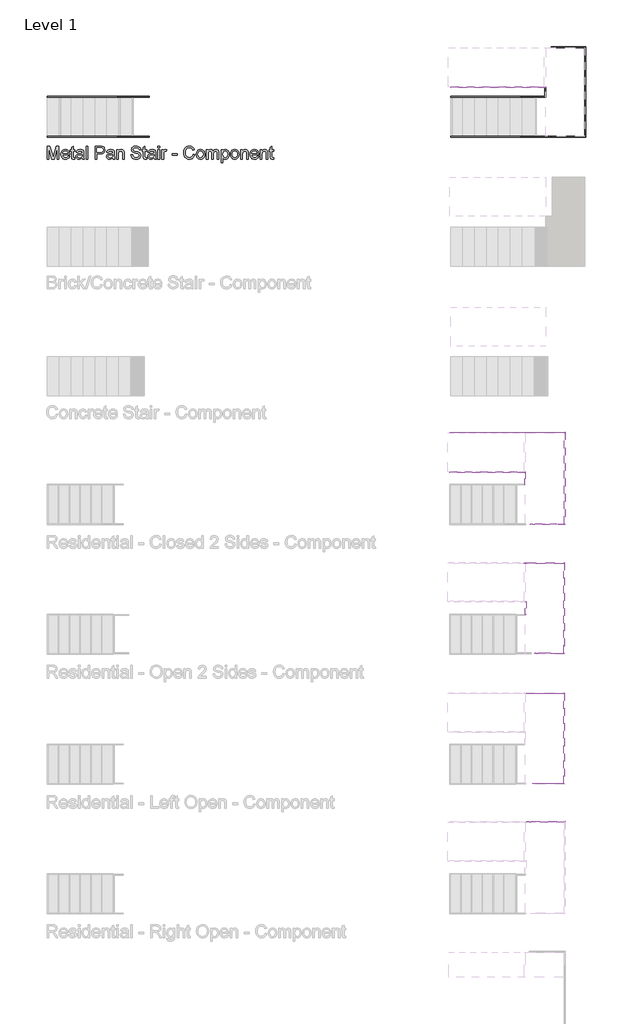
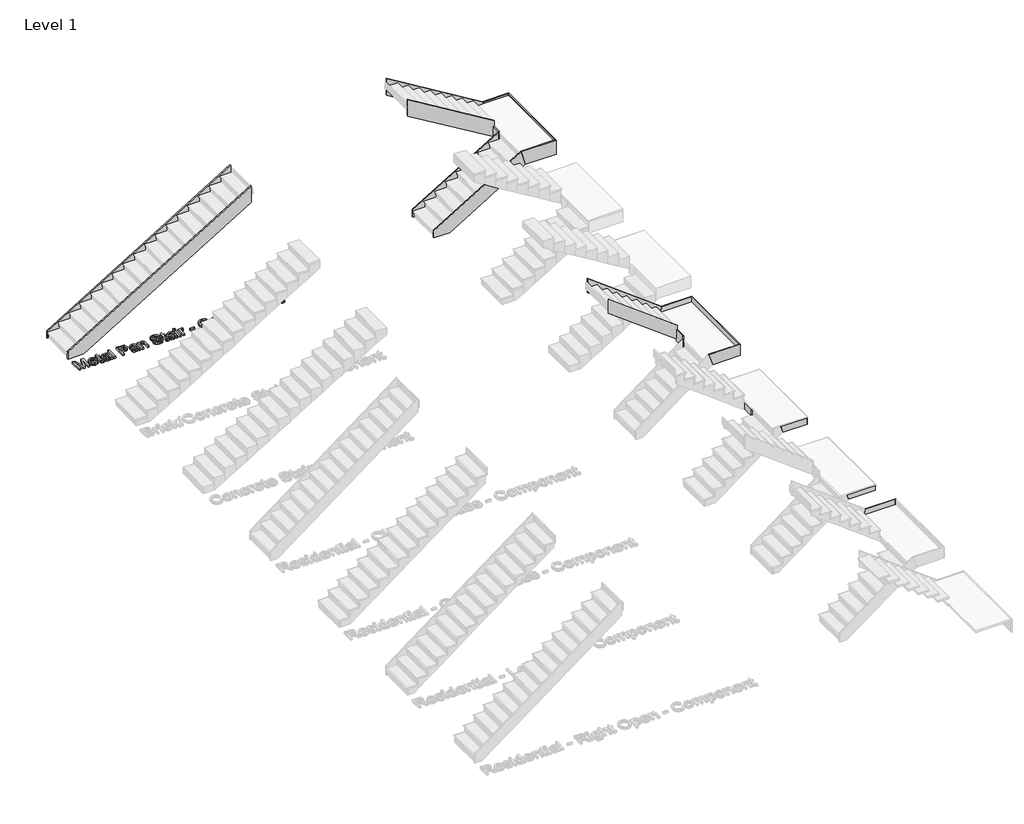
# One storey, part 15 of 15: 24 members, 1 proxy.
"""IFC4 building model written with IfcOpenShell, lengths in millimetres."""

import ifcopenshell
import ifcopenshell.guid

model = None  # the IFC model being written
_history = None  # IfcOwnerHistory: only IFC2X3 demands one
_inside = {}  # id of a spatial element -> (the spatial element, [elements in it])
_under = {}  # id of a project, library or spatial element -> (it, [spatial elements below it])
_declared = {}  # id of a project -> (the project, [libraries it declares])
_typed = {}  # id of a type object -> (the type object, [elements of that type])
_made_of = {}  # id of a material, layer set ... -> (it, [elements and type objects made of it])


def new_model(schema):
    """Start an empty IFC model of exactly this schema.

    Asked for "IFC4X3", IfcOpenShell would pick the latest addendum, in which some entities
    have other attributes; the version numbers below select the first issue.
    IFC2X3 requires an IfcOwnerHistory on every rooted entity: one is made here for all.
    """
    global model, _history
    if schema == "IFC4X3":
        model = ifcopenshell.file(schema_version=(4, 3, 0, 0))
    else:
        model = ifcopenshell.file(schema=schema)
    _inside.clear()
    _under.clear()
    _declared.clear()
    _typed.clear()
    _made_of.clear()
    _history = None
    if model.schema == "IFC2X3":
        org = make("IfcOrganization", Name="unknown")
        user = make(
            "IfcPersonAndOrganization",
            ThePerson=make("IfcPerson", FamilyName="unknown"),
            TheOrganization=org,
        )
        app = make(
            "IfcApplication",
            ApplicationDeveloper=org,
            Version="unknown",
            ApplicationFullName="unknown",
            ApplicationIdentifier="unknown",
        )
        _history = make(
            "IfcOwnerHistory",
            OwningUser=user,
            OwningApplication=app,
            ChangeAction="ADDED",
            CreationDate=0,
        )
    return model


def make(cls, **values):
    """One entity of the class cls with the attributes given. An attribute that is None is left unset."""
    return model.create_entity(
        cls, **{name: value for name, value in values.items() if value is not None}
    )


def rooted(cls, **values):
    """An entity with a GlobalId (a new one), such as an element, a storey or a relation."""
    return make(cls, GlobalId=ifcopenshell.guid.new(), OwnerHistory=_history, **values)


def si_unit(unit_type, name, prefix=None):
    """IfcSIUnit, for example si_unit("LENGTHUNIT", "METRE", prefix="MILLI")."""
    return make("IfcSIUnit", UnitType=unit_type, Prefix=prefix, Name=name)


def assignment(units):
    """IfcUnitAssignment: the units of a project."""
    return None if units is None else make("IfcUnitAssignment", Units=units)


def point(xyz):
    """IfcCartesianPoint."""
    return None if xyz is None else make("IfcCartesianPoint", Coordinates=xyz)


def direction(xyz):
    """IfcDirection."""
    return None if xyz is None else make("IfcDirection", DirectionRatios=xyz)


def frame(location, z_axis=None, x_axis=None):
    """IfcAxis2Placement3D, a coordinate frame: its origin and axes. An axis left out is left unset."""
    return make(
        "IfcAxis2Placement3D",
        Location=point(location),
        Axis=direction(z_axis),
        RefDirection=direction(x_axis),
    )


def origin():
    """The frame at (0, 0, 0) with its axes left unset."""
    return frame((0.0, 0.0, 0.0))


def origin_with_axes():
    """The frame at (0, 0, 0) with the z axis (0, 0, 1) and the x axis (1, 0, 0) written out."""
    return frame((0.0, 0.0, 0.0), z_axis=(0.0, 0.0, 1.0), x_axis=(1.0, 0.0, 0.0))


def place(relative_to, where):
    """IfcLocalPlacement: puts the frame where relative to a parent placement (None: the world)."""
    return make(
        "IfcLocalPlacement", PlacementRelTo=relative_to, RelativePlacement=where
    )


def context(
    kind, dimensions, precision=None, world=None, true_north=None, identifier=None
):
    """IfcGeometricRepresentationContext, for example the 3D "Model" context."""
    return make(
        "IfcGeometricRepresentationContext",
        ContextIdentifier=identifier,
        ContextType=kind,
        CoordinateSpaceDimension=dimensions,
        Precision=precision,
        WorldCoordinateSystem=world,
        TrueNorth=true_north,
    )


def project(units=None, contexts=None):
    """IfcProject with its units and contexts."""
    return rooted(
        "IfcProject",
        Name="project",
        RepresentationContexts=contexts,
        UnitsInContext=assignment(units),
    )


def spatial(cls, under=None, at=None, **own):
    """A site, building, storey or space (cls), placed at a placement, below another one or the project."""
    s = rooted(cls, ObjectPlacement=at, **own)
    if under is not None:
        _under.setdefault(under.id(), (under, []))[1].append(s)
    return s


def polyline(points):
    """IfcPolyline through the points."""
    return make("IfcPolyline", Points=[point(p) for p in points])


def outline(outer, holes=None, kind="AREA"):
    """IfcArbitraryClosedProfileDef: a profile drawn as a closed curve; with holes, ...WithVoids."""
    if holes is None:
        return make("IfcArbitraryClosedProfileDef", ProfileType=kind, OuterCurve=outer)
    return make(
        "IfcArbitraryProfileDefWithVoids",
        ProfileType=kind,
        OuterCurve=outer,
        InnerCurves=holes,
    )


def extrude(swept, where, along, depth):
    """IfcExtrudedAreaSolid: the profile swept, set in the frame where, extruded along a direction by depth."""
    return make(
        "IfcExtrudedAreaSolid",
        SweptArea=swept,
        Position=where,
        ExtrudedDirection=direction(along),
        Depth=depth,
    )


def faces_of(points, faces, orient=None, outer=None):
    """IfcFace entities. A face is a list of loops; a loop is a list of indices into points, from 0.

    orient and outer hold one flag for each loop. By default every Orientation is true, the
    first loop of a face is its IfcFaceOuterBound and the others are IfcFaceBound.
    """
    made = []
    for i, loops in enumerate(faces):
        bounds = []
        for j, loop in enumerate(loops):
            is_outer = j == 0 if outer is None else outer[i][j]
            bounds.append(
                make(
                    "IfcFaceOuterBound" if is_outer else "IfcFaceBound",
                    Bound=make("IfcPolyLoop", Polygon=[points[k] for k in loop]),
                    Orientation=True if orient is None else orient[i][j],
                )
            )
        made.append(make("IfcFace", Bounds=bounds))
    return made


def faceted_brep(points, faces, orient=None, outer=None, voids=None):
    """IfcFacetedBrep: a solid bounded by flat faces; with voids (closed shells), ...WithVoids."""
    shared = [point(p) for p in points]
    hull = make("IfcClosedShell", CfsFaces=faces_of(shared, faces, orient, outer))
    if voids is None:
        return make("IfcFacetedBrep", Outer=hull)
    return make(
        "IfcFacetedBrepWithVoids",
        Outer=hull,
        Voids=[
            make(cls, CfsFaces=faces_of(shared, fs, o, b)) for cls, fs, o, b in voids
        ],
    )


def shape(context_of_items, identifier, shape_type, items):
    """IfcShapeRepresentation: the items that make up one representation, for example the "Body"."""
    return make(
        "IfcShapeRepresentation",
        ContextOfItems=context_of_items,
        RepresentationIdentifier=identifier,
        RepresentationType=shape_type,
        Items=items,
    )


def made_of(thing, what):
    """Note that an element or type object is made of a material, layer set ...; save() writes the relation."""
    if what is not None:
        _made_of.setdefault(what.id(), (what, []))[1].append(thing)
    return thing


def element(
    cls,
    number,
    at=None,
    inside=None,
    cuts=None,
    type_object=None,
    material=None,
    context=None,
    identifier="Body",
    shape_type=None,
    held_by="IfcProductDefinitionShape",
    body=None,
    shapes=None,
    **own,
):
    """One element of the class cls, such as IfcWall. Its Tag is "e" and its number.

    at: its placement. inside: the storey or other place that contains it. cuts: it is an
    opening in that element (IfcRelVoidsElement). A single representation is given by context,
    identifier, shape_type and body (its items); several are given by shapes. held_by: the class
    of the entity that holds the representations. save() writes the other relations.
    """
    e = rooted(cls, Tag="e%d" % number, ObjectPlacement=at, **own)
    if body is not None:
        shapes = [shape(context, identifier, shape_type, body)]
    if shapes is not None:
        e.Representation = make(held_by, Representations=shapes)
    if inside is not None:
        _inside.setdefault(inside.id(), (inside, []))[1].append(e)
    if cuts is not None:
        rooted(
            "IfcRelVoidsElement", RelatingBuildingElement=cuts, RelatedOpeningElement=e
        )
    if type_object is not None:
        _typed.setdefault(type_object.id(), (type_object, []))[1].append(e)
    return made_of(e, material)


def aggregate(whole, parts):
    """IfcRelAggregates: a whole, such as a stair, and the parts it consists of."""
    return rooted("IfcRelAggregates", RelatingObject=whole, RelatedObjects=parts)


def save(model, path):
    """Write the relations noted so far, then the file.

    IfcRelAggregates (storeys below a building ...), IfcRelContainedInSpatialStructure (elements
    in a storey), IfcRelDefinesByType, IfcRelAssociatesMaterial and IfcRelDeclares: one each for
    every whole, place, type object, material and project.
    """
    for whole, parts in _under.values():
        aggregate(whole, parts)
    for where, things in _inside.values():
        rooted(
            "IfcRelContainedInSpatialStructure",
            RelatedElements=things,
            RelatingStructure=where,
        )
    for kind, things in _typed.values():
        rooted("IfcRelDefinesByType", RelatedObjects=things, RelatingType=kind)
    for what, things in _made_of.values():
        rooted("IfcRelAssociatesMaterial", RelatedObjects=things, RelatingMaterial=what)
    for by, libraries in _declared.values():
        rooted("IfcRelDeclares", RelatingContext=by, RelatedDefinitions=libraries)
    model.write(path)


model = new_model("IFC4")

# Units and contexts
model_context = context("Model", 3, world=origin())
ifc_project = project(units=[si_unit("LENGTHUNIT", "METRE", prefix="MILLI")], contexts=[model_context])

# Site, building, storey
site = spatial("IfcSite", under=ifc_project)
building = spatial("IfcBuilding", under=site)
storey = spatial("IfcBuildingStorey", under=building, Name="Level 1", Elevation=0.0)

# Proxy
placement = place(None, origin())
element("IfcBuildingElementProxy", 1, Name="12\" Arial", ObjectType="12\" Arial", at=placement, inside=storey, context=model_context, shape_type="SweptSolid", body=[
    extrude(outline(polyline([(-27238.310174, 15572.8767877), (-27238.310174, 15872.987557), (-27173.7599817, 15872.987557), (-27112.3603664, 15661.4592877), (-27099.9778664, 15617.2779416), (-27086.5695971, 15665.1227493), (-27026.195751, 15872.987557), (-26961.6455587, 15872.987557), (-26961.6455587, 15572.8767877), (-26999.1594048, 15572.8767877), (-26999.1594048, 15835.4737108), (-27074.5534433, 15572.8767877), (-27125.4022894, 15572.8767877), (-27200.7963279, 15835.4737108), (-27200.7963279, 15572.8767877), (-27238.310174, 15572.8767877)])), origin_with_axes(), (0.0, 0.0, 1.0), 50.8),
    extrude(outline(polyline([(-26746.3805587, 15638.5260185), (-26709.5994048, 15633.8367877), (-26722.8519769, 15606.1227012), (-26743.9993087, 15585.4058262), (-26772.56515, 15572.4921243), (-26808.073251, 15568.187557), (-26831.3499697, 15570.044474), (-26852.0897414, 15575.6152252), (-26870.2925659, 15584.8998106), (-26885.9584433, 15597.89823), (-26898.5561716, 15614.2487168), (-26907.554549, 15633.5895041), (-26912.9535755, 15655.9205918), (-26914.753251, 15681.24198), (-26912.9352582, 15707.4219921), (-26907.4812798, 15730.4972204), (-26898.3913159, 15750.4676651), (-26885.6653664, 15767.3333262), (-26870.0407029, 15780.7324368), (-26852.2545971, 15790.30323), (-26832.307049, 15796.045706), (-26810.1980587, 15797.9598646), (-26788.8011536, 15796.0502853), (-26769.4512077, 15790.3215473), (-26752.1482209, 15780.7736507), (-26736.8921933, 15767.4065954), (-26724.4387137, 15750.577569), (-26715.5433712, 15730.6437589), (-26710.2061656, 15707.6051651), (-26708.4270971, 15681.4617877), (-26708.6469048, 15671.3506339), (-26877.2394048, 15671.3506339), (-26870.7459192, 15643.2702012), (-26855.6616164, 15622.6265954), (-26833.8914962, 15609.9327012), (-26807.3405587, 15605.7014031), (-26787.3746933, 15607.661355), (-26770.5594048, 15613.5412108), (-26756.8946933, 15623.7073166), (-26746.3805587, 15638.5260185)]), holes=[polyline([(-26877.2394048, 15708.86448), (-26745.9409433, 15708.86448), (-26751.0148375, 15728.683807), (-26760.9611356, 15742.8614031), (-26782.832001, 15756.0498646), (-26810.3445971, 15760.4460185), (-26835.6316404, 15756.9382541), (-26856.5408471, 15746.4149608), (-26871.0756308, 15730.0118118), (-26877.2394048, 15708.86448)])]), origin_with_axes(), (0.0, 0.0, 1.0), 50.8),
    extrude(outline(polyline([(-26591.1963279, 15604.1627493), (-26586.5070971, 15571.7777493), (-26614.5692125, 15568.187557), (-26632.575126, 15569.7445281), (-26646.0017125, 15574.4154416), (-26655.4900779, 15581.6141435), (-26661.6813279, 15590.75448), (-26665.0883471, 15606.4524127), (-26666.2240202, 15633.3239031), (-26666.2240202, 15755.7567877), (-26694.3594048, 15755.7567877), (-26694.3594048, 15793.2706339), (-26666.2240202, 15793.2706339), (-26666.2240202, 15846.8304416), (-26628.710174, 15868.88448), (-26628.710174, 15793.2706339), (-26591.1963279, 15793.2706339), (-26591.1963279, 15755.7567877), (-26628.710174, 15755.7567877), (-26628.710174, 15634.4229416), (-26626.7319048, 15615.0798646), (-26620.3208471, 15608.2291916), (-26607.5353664, 15605.7014031), (-26591.1963279, 15604.1627493)])), origin_with_axes(), (0.0, 0.0, 1.0), 50.8),
    extrude(outline(polyline([(-26413.0055587, 15601.0121723), (-26430.9290442, 15585.6439512), (-26449.3837317, 15575.5877493), (-26468.7909192, 15570.037605), (-26489.5719048, 15568.187557), (-26520.9219769, 15572.6386627), (-26544.0475779, 15585.99198), (-26558.3076019, 15606.2692396), (-26563.0609433, 15631.4921723), (-26561.2658471, 15647.0435666), (-26555.8805587, 15661.1662108), (-26547.5736596, 15673.2556339), (-26537.0137317, 15682.7073646), (-26510.7467125, 15695.0165954), (-26478.2884433, 15700.6583262), (-26439.932001, 15706.5931339), (-26413.2253664, 15713.5537108), (-26413.0055587, 15721.9064031), (-26415.588299, 15738.6484223), (-26423.3365202, 15749.6021723), (-26440.6646933, 15757.735057), (-26464.8069048, 15760.4460185), (-26487.1540202, 15758.6417637), (-26502.7603664, 15753.2289993), (-26513.4027221, 15743.2185906), (-26520.8578664, 15727.6214031), (-26558.3717125, 15732.3106339), (-26551.8599096, 15752.8260185), (-26542.1425779, 15768.9452493), (-26528.3130106, 15781.2727973), (-26509.464501, 15790.4131339), (-26486.4121692, 15796.073182), (-26459.9711356, 15797.9598646), (-26434.6108231, 15796.2929896), (-26414.5075779, 15791.2923646), (-26399.3500058, 15783.7731098), (-26388.8267125, 15774.5503454), (-26381.8478183, 15763.1478214), (-26377.3234433, 15749.0892877), (-26375.4917125, 15716.2646723), (-26375.4917125, 15669.5921723), (-26373.5867125, 15604.4191916), (-26366.113251, 15572.8767877), (-26403.6270971, 15572.8767877), (-26413.0055587, 15601.0121723)]), holes=[polyline([(-26413.0055587, 15676.0398646), (-26473.5259433, 15664.5365954), (-26505.8010394, 15658.4552493), (-26520.418251, 15648.5639031), (-26525.5470971, 15634.1298646), (-26522.7537077, 15622.9746243), (-26514.3735394, 15613.8342877), (-26500.5897654, 15607.7346243), (-26481.5855587, 15605.7014031), (-26461.4365202, 15607.9452733), (-26443.6320971, 15614.6768839), (-26429.1980587, 15624.595706), (-26419.160174, 15636.4012108), (-26414.7090683, 15648.5639031), (-26413.2253664, 15665.4158262), (-26413.0055587, 15676.0398646)])]), origin_with_axes(), (0.0, 0.0, 1.0), 50.8),
    extrude(outline(polyline([(-26323.910174, 15572.8767877), (-26323.910174, 15872.987557), (-26286.3963279, 15872.987557), (-26286.3963279, 15572.8767877), (-26323.910174, 15572.8767877)])), origin_with_axes(), (0.0, 0.0, 1.0), 50.8),
    extrude(outline(polyline([(-26108.2055587, 15572.8767877), (-26108.2055587, 15872.987557), (-25996.9828664, 15872.987557), (-25952.1420971, 15870.130057), (-25932.1487558, 15864.7905618), (-25915.6906548, 15856.0989993), (-25902.4380827, 15843.6615473), (-25892.0613279, 15827.0843839), (-25885.3571933, 15807.5306579), (-25883.1224817, 15786.1635185), (-25884.63137, 15767.7408863), (-25889.1580346, 15750.7927973), (-25896.7024757, 15735.3192517), (-25907.2646933, 15721.3202493), (-25921.765132, 15709.7162348), (-25941.1242365, 15701.4276531), (-25965.342007, 15696.4545041), (-25994.4184433, 15694.7967877), (-26070.6917125, 15694.7967877), (-26070.6917125, 15572.8767877), (-26108.2055587, 15572.8767877)]), holes=[polyline([(-26070.6917125, 15732.3106339), (-25992.2203664, 15732.3106339), (-25958.9561356, 15735.7542877), (-25936.9753664, 15746.0852493), (-25924.7210875, 15762.6624127), (-25920.6363279, 15784.8446723), (-25923.0450539, 15801.6965954), (-25930.2712317, 15815.9108262), (-25941.4173135, 15826.6081339), (-25955.585751, 15832.9092877), (-25993.0995971, 15835.4737108), (-26070.6917125, 15835.4737108), (-26070.6917125, 15732.3106339)])]), origin_with_axes(), (0.0, 0.0, 1.0), 50.8),
    extrude(outline(polyline([(-25695.553251, 15601.0121723), (-25713.4767365, 15585.6439512), (-25731.931424, 15575.5877493), (-25751.3386115, 15570.037605), (-25772.1195971, 15568.187557), (-25803.4696692, 15572.6386627), (-25826.5952702, 15585.99198), (-25840.8552942, 15606.2692396), (-25845.6086356, 15631.4921723), (-25843.8135394, 15647.0435666), (-25838.428251, 15661.1662108), (-25830.1213519, 15673.2556339), (-25819.561424, 15682.7073646), (-25793.2944048, 15695.0165954), (-25760.8361356, 15700.6583262), (-25722.4796933, 15706.5931339), (-25695.7730587, 15713.5537108), (-25695.553251, 15721.9064031), (-25698.1359914, 15738.6484223), (-25705.8842125, 15749.6021723), (-25723.2123856, 15757.735057), (-25747.3545971, 15760.4460185), (-25769.7017125, 15758.6417637), (-25785.3080587, 15753.2289993), (-25795.9504144, 15743.2185906), (-25803.4055587, 15727.6214031), (-25840.9194048, 15732.3106339), (-25834.4076019, 15752.8260185), (-25824.6902702, 15768.9452493), (-25810.8607029, 15781.2727973), (-25792.0121933, 15790.4131339), (-25768.9598615, 15796.073182), (-25742.5188279, 15797.9598646), (-25717.1585154, 15796.2929896), (-25697.0552702, 15791.2923646), (-25681.8976981, 15783.7731098), (-25671.3744048, 15774.5503454), (-25664.3955106, 15763.1478214), (-25659.8711356, 15749.0892877), (-25658.0394048, 15716.2646723), (-25658.0394048, 15669.5921723), (-25656.1344048, 15604.4191916), (-25648.6609433, 15572.8767877), (-25686.1747894, 15572.8767877), (-25695.553251, 15601.0121723)]), holes=[polyline([(-25695.553251, 15676.0398646), (-25756.0736356, 15664.5365954), (-25788.3487317, 15658.4552493), (-25802.9659433, 15648.5639031), (-25808.0947894, 15634.1298646), (-25805.3014, 15622.9746243), (-25796.9212317, 15613.8342877), (-25783.1374577, 15607.7346243), (-25764.133251, 15605.7014031), (-25743.9842125, 15607.9452733), (-25726.1797894, 15614.6768839), (-25711.745751, 15624.595706), (-25701.7078664, 15636.4012108), (-25697.2567606, 15648.5639031), (-25695.7730587, 15665.4158262), (-25695.553251, 15676.0398646)])]), origin_with_axes(), (0.0, 0.0, 1.0), 50.8),
    extrude(outline(polyline([(-25606.4578664, 15572.8767877), (-25606.4578664, 15793.2706339), (-25568.9440202, 15793.2706339), (-25568.9440202, 15762.497557), (-25555.9112558, 15778.0123166), (-25540.2591164, 15789.0942877), (-25521.9876019, 15795.7434704), (-25501.0967125, 15797.9598646), (-25482.6053904, 15796.1739271), (-25465.6710394, 15790.8161146), (-25451.5483952, 15782.5550089), (-25441.4921933, 15772.0591916), (-25430.2453664, 15744.4733262), (-25428.2670971, 15708.205057), (-25428.2670971, 15572.8767877), (-25465.7809433, 15572.8767877), (-25465.7809433, 15703.14948), (-25470.1038279, 15736.3404416), (-25476.0844289, 15746.2226291), (-25485.3804625, 15753.8884223), (-25497.2958712, 15758.8066195), (-25511.1345971, 15760.4460185), (-25533.1062077, 15756.7642396), (-25551.8356548, 15745.7189031), (-25559.3205647, 15736.7022084), (-25564.6669289, 15724.3792396), (-25568.9440202, 15689.81448), (-25568.9440202, 15572.8767877), (-25606.4578664, 15572.8767877)])), origin_with_axes(), (0.0, 0.0, 1.0), 50.8),
    extrude(outline(polyline([(-25268.833251, 15676.0398646), (-25231.3194048, 15676.0398646), (-25227.0148375, 15655.2222445), (-25219.2299817, 15638.4893839), (-25207.0856067, 15625.2093358), (-25189.7024817, 15614.7501531), (-25168.4544048, 15607.9635906), (-25144.715174, 15605.7014031), (-25123.815126, 15607.4140714), (-25105.5161356, 15612.5520762), (-25090.688275, 15620.6849608), (-25080.2016164, 15631.3822685), (-25073.9645731, 15643.6640233), (-25071.8855587, 15656.5502493), (-25073.4425298, 15669.1067637), (-25078.1134433, 15679.9597685), (-25087.6018087, 15689.2191675), (-25103.6111356, 15696.9948646), (-25158.2333471, 15711.3189993), (-25194.0894769, 15720.798206), (-25217.0319048, 15729.81948), (-25235.7064, 15742.440105), (-25248.9406548, 15757.735057), (-25256.8262558, 15775.3746243), (-25259.4547894, 15795.0290954), (-25256.2034673, 15817.000706), (-25246.449501, 15837.4886146), (-25230.4493327, 15854.8534223), (-25208.4594048, 15867.45573), (-25182.0641644, 15875.1215233), (-25152.8480587, 15877.6767877), (-25121.195751, 15875.0024608), (-25093.4999817, 15866.97948), (-25070.7498856, 15853.7727012), (-25053.9345971, 15835.54698), (-25043.2922414, 15813.4379896), (-25039.0609433, 15788.5814031), (-25076.5747894, 15788.5814031), (-25083.4620971, 15810.9651531), (-25097.8228664, 15827.1210185), (-25120.2615683, 15836.9024608), (-25151.382674, 15840.1629416), (-25183.2364721, 15836.9390954), (-25205.0890202, 15827.267557), (-25217.7279625, 15813.0350089), (-25221.9409433, 15796.1281339), (-25218.9552221, 15781.7124127), (-25209.9980587, 15770.117557), (-25188.823251, 15759.7499608), (-25148.7449817, 15749.162557), (-25107.384501, 15739.106355), (-25082.3630587, 15730.3323646), (-25060.9776019, 15716.722605), (-25046.0581548, 15699.9256339), (-25037.2933231, 15680.1246243), (-25034.3717125, 15657.5027493), (-25037.7329385, 15634.3771483), (-25047.8166164, 15612.6253454), (-25064.2106067, 15593.905057), (-25086.5027702, 15579.8739993), (-25113.31015, 15571.1091675), (-25143.2497894, 15568.187557), (-25180.0034673, 15571.3381339), (-25210.254501, 15580.7898646), (-25234.3509192, 15596.5793839), (-25252.640751, 15618.7433262), (-25264.3821452, 15645.7430377), (-25268.833251, 15676.0398646)])), origin_with_axes(), (0.0, 0.0, 1.0), 50.8),
    extrude(outline(polyline([(-24903.073251, 15604.1627493), (-24898.3840202, 15571.7777493), (-24926.4461356, 15568.187557), (-24944.452049, 15569.7445281), (-24957.8786356, 15574.4154416), (-24967.367001, 15581.6141435), (-24973.558251, 15590.75448), (-24976.9652702, 15606.4524127), (-24978.1009433, 15633.3239031), (-24978.1009433, 15755.7567877), (-25006.2363279, 15755.7567877), (-25006.2363279, 15793.2706339), (-24978.1009433, 15793.2706339), (-24978.1009433, 15846.8304416), (-24940.5870971, 15868.88448), (-24940.5870971, 15793.2706339), (-24903.073251, 15793.2706339), (-24903.073251, 15755.7567877), (-24940.5870971, 15755.7567877), (-24940.5870971, 15634.4229416), (-24938.6088279, 15615.0798646), (-24932.1977702, 15608.2291916), (-24919.4122894, 15605.7014031), (-24903.073251, 15604.1627493)])), origin_with_axes(), (0.0, 0.0, 1.0), 50.8),
    extrude(outline(polyline([(-24724.8824817, 15601.0121723), (-24742.8059673, 15585.6439512), (-24761.2606548, 15575.5877493), (-24780.6678423, 15570.037605), (-24801.4488279, 15568.187557), (-24832.7989, 15572.6386627), (-24855.924501, 15585.99198), (-24870.184525, 15606.2692396), (-24874.9378664, 15631.4921723), (-24873.1427702, 15647.0435666), (-24867.7574817, 15661.1662108), (-24859.4505827, 15673.2556339), (-24848.8906548, 15682.7073646), (-24822.6236356, 15695.0165954), (-24790.1653664, 15700.6583262), (-24751.808924, 15706.5931339), (-24725.1022894, 15713.5537108), (-24724.8824817, 15721.9064031), (-24727.4652221, 15738.6484223), (-24735.2134433, 15749.6021723), (-24752.5416164, 15757.735057), (-24776.6838279, 15760.4460185), (-24799.0309433, 15758.6417637), (-24814.6372894, 15753.2289993), (-24825.2796452, 15743.2185906), (-24832.7347894, 15727.6214031), (-24870.2486356, 15732.3106339), (-24863.7368327, 15752.8260185), (-24854.019501, 15768.9452493), (-24840.1899337, 15781.2727973), (-24821.341424, 15790.4131339), (-24798.2890923, 15796.073182), (-24771.8480587, 15797.9598646), (-24746.4877462, 15796.2929896), (-24726.384501, 15791.2923646), (-24711.2269289, 15783.7731098), (-24700.7036356, 15774.5503454), (-24693.7247414, 15763.1478214), (-24689.2003664, 15749.0892877), (-24687.3686356, 15716.2646723), (-24687.3686356, 15669.5921723), (-24685.4636356, 15604.4191916), (-24677.990174, 15572.8767877), (-24715.5040202, 15572.8767877), (-24724.8824817, 15601.0121723)]), holes=[polyline([(-24724.8824817, 15676.0398646), (-24785.4028664, 15664.5365954), (-24817.6779625, 15658.4552493), (-24832.295174, 15648.5639031), (-24837.4240202, 15634.1298646), (-24834.6306308, 15622.9746243), (-24826.2504625, 15613.8342877), (-24812.4666885, 15607.7346243), (-24793.4624817, 15605.7014031), (-24773.3134433, 15607.9452733), (-24755.5090202, 15614.6768839), (-24741.0749817, 15624.595706), (-24731.0370971, 15636.4012108), (-24726.5859914, 15648.5639031), (-24725.1022894, 15665.4158262), (-24724.8824817, 15676.0398646)])]), origin_with_axes(), (0.0, 0.0, 1.0), 50.8),
    extrude(outline(polyline([(-24635.7870971, 15572.8767877), (-24635.7870971, 15793.2706339), (-24598.273251, 15793.2706339), (-24598.273251, 15572.8767877), (-24635.7870971, 15572.8767877)])), origin_with_axes(), (0.0, 0.0, 1.0), 50.8),
    extrude(outline(polyline([(-24635.7870971, 15835.4737108), (-24635.7870971, 15872.987557), (-24598.273251, 15872.987557), (-24598.273251, 15835.4737108), (-24635.7870971, 15835.4737108)])), origin_with_axes(), (0.0, 0.0, 1.0), 50.8),
    extrude(outline(polyline([(-24542.0024817, 15572.8767877), (-24542.0024817, 15793.2706339), (-24509.1778664, 15793.2706339), (-24509.1778664, 15760.6658262), (-24497.0518087, 15779.5692877), (-24485.878251, 15790.7062108), (-24474.6680587, 15796.1464512), (-24462.4320971, 15797.9598646), (-24443.7484433, 15795.06573), (-24424.7717125, 15786.3833262), (-24437.300751, 15752.7527493), (-24450.4892125, 15758.5227012), (-24463.677674, 15760.4460185), (-24474.8787077, 15758.5959704), (-24484.8891164, 15753.0458262), (-24492.9762077, 15744.2168839), (-24498.4072894, 15732.5304416), (-24502.968299, 15711.5754416), (-24504.4886356, 15688.7154416), (-24504.4886356, 15572.8767877), (-24542.0024817, 15572.8767877)])), origin_with_axes(), (0.0, 0.0, 1.0), 50.8),
    extrude(outline(polyline([(-24302.8517125, 15661.9721723), (-24302.8517125, 15699.4860185), (-24185.6209433, 15699.4860185), (-24185.6209433, 15661.9721723), (-24302.8517125, 15661.9721723)])), origin_with_axes(), (0.0, 0.0, 1.0), 50.8),
    extrude(outline(polyline([(-23810.4824817, 15679.5567877), (-23772.9686356, 15669.8852493), (-23780.3917245, 15646.5558683), (-23790.2784914, 15626.1709945), (-23802.6289361, 15608.7306279), (-23817.4430587, 15594.2347685), (-23834.3865683, 15582.8391134), (-23853.125174, 15574.6993598), (-23873.658876, 15569.8155077), (-23895.987674, 15568.187557), (-23939.5004385, 15573.1149127), (-23974.0560394, 15587.89698), (-24000.5428664, 15612.0208743), (-24019.8493087, 15644.9737108), (-24031.6364962, 15683.7148166), (-24035.5655587, 15725.2035185), (-24031.1236115, 15768.9635666), (-24017.7977702, 15806.7521723), (-23996.2840923, 15837.3695521), (-23967.2786356, 15859.6159223), (-23932.8787317, 15873.1615714), (-23895.1817125, 15877.6767877), (-23854.0501981, 15871.8335666), (-23836.1564781, 15864.5295401), (-23820.0441164, 15854.3039031), (-23805.9787137, 15841.4268358), (-23794.2258712, 15826.1685185), (-23777.6578664, 15788.5081339), (-23815.1717125, 15779.5692877), (-23828.177001, 15806.9261868), (-23845.9447894, 15825.6922685), (-23868.6948856, 15836.5452733), (-23896.6470971, 15840.1629416), (-23928.8672414, 15836.1514512), (-23955.335751, 15824.11698), (-23975.4206789, 15805.3234223), (-23988.4900779, 15781.0346723), (-23995.6613039, 15753.5770281), (-23998.0517125, 15725.2767877), (-23995.2216885, 15690.6204416), (-23986.7316164, 15660.6533262), (-23972.2609433, 15636.5202733), (-23951.4891164, 15619.3661146), (-23926.5867365, 15609.117581), (-23899.7244048, 15605.7014031), (-23868.4109673, 15610.3539993), (-23842.3179625, 15624.3117877), (-23822.6176981, 15647.42823), (-23810.4824817, 15679.5567877)])), origin_with_axes(), (0.0, 0.0, 1.0), 50.8),
    extrude(outline(polyline([(-23735.4547894, 15683.0737108), (-23733.4261476, 15711.6166555), (-23727.3402221, 15736.2122204), (-23717.197013, 15756.8604055), (-23702.9965202, 15773.5612108), (-23688.6998615, 15784.2356219), (-23672.919501, 15791.8602012), (-23655.6554385, 15796.4349488), (-23636.907674, 15797.9598646), (-23616.211406, 15796.1029476), (-23597.4979865, 15790.5321964), (-23580.7674156, 15781.247611), (-23566.0196933, 15768.2491916), (-23553.9829325, 15751.9765534), (-23545.3852462, 15732.8693118), (-23540.2266344, 15710.9274668), (-23538.5070971, 15686.1510185), (-23541.5477702, 15648.2525089), (-23550.6697894, 15619.4027493), (-23565.6075539, 15597.7974848), (-23586.0954625, 15581.6324608), (-23610.4300058, 15571.5487829), (-23636.907674, 15568.187557), (-23657.9061777, 15570.037605), (-23676.7936115, 15575.5877493), (-23693.5699757, 15584.8379896), (-23708.2352702, 15597.7883262), (-23720.1438099, 15614.2189512), (-23728.6499096, 15633.910057), (-23733.7535695, 15656.8616435), (-23735.4547894, 15683.0737108)]), holes=[polyline([(-23697.9409433, 15683.14698), (-23693.5997414, 15649.1958502), (-23680.5761356, 15625.0078454), (-23660.9766164, 15610.5280137), (-23636.907674, 15605.7014031), (-23612.9486356, 15610.5554896), (-23593.385751, 15625.1177493), (-23580.3621452, 15649.626307), (-23576.0209433, 15684.3192877), (-23580.3896212, 15717.2812829), (-23593.4956548, 15741.1395762), (-23613.0860154, 15755.6194079), (-23636.907674, 15760.4460185), (-23660.9766164, 15755.6377252), (-23680.5761356, 15741.2128454), (-23693.5997414, 15717.0797925), (-23697.9409433, 15683.14698)])]), origin_with_axes(), (0.0, 0.0, 1.0), 50.8),
    extrude(outline(polyline([(-23496.3040202, 15572.8767877), (-23496.3040202, 15793.2706339), (-23458.790174, 15793.2706339), (-23458.790174, 15757.0023646), (-23447.5067125, 15773.661956), (-23432.9994048, 15786.7130377), (-23415.7628183, 15795.1481579), (-23396.2915202, 15797.9598646), (-23375.4281067, 15795.093206), (-23358.7044048, 15786.49323), (-23346.212001, 15772.7277733), (-23338.0424817, 15754.3646723), (-23324.3686115, 15773.437569), (-23308.771424, 15787.0610666), (-23291.2509192, 15795.2351651), (-23271.8070971, 15797.9598646), (-23243.6076019, 15793.426331), (-23222.7533471, 15779.82573), (-23209.8671212, 15756.7917156), (-23205.5717125, 15723.9579416), (-23205.5717125, 15572.8767877), (-23243.0855587, 15572.8767877), (-23243.0855587, 15707.8387108), (-23246.5658471, 15739.161307), (-23251.4565683, 15747.7979175), (-23259.1681548, 15754.58448), (-23269.0869769, 15758.9806339), (-23280.5994048, 15760.4460185), (-23300.9224577, 15756.6909704), (-23317.4904625, 15745.4258262), (-23328.5083231, 15725.8812589), (-23332.1809433, 15697.2879416), (-23332.1809433, 15572.8767877), (-23369.6947894, 15572.8767877), (-23369.6947894, 15712.015057), (-23371.8653904, 15733.2264993), (-23378.3771933, 15748.3565954), (-23389.8346692, 15757.4236627), (-23406.8422894, 15760.4460185), (-23421.2946452, 15758.4311146), (-23434.6113279, 15752.3864031), (-23445.6017125, 15742.4584223), (-23453.075174, 15728.7937108), (-23457.361424, 15709.8352973), (-23458.790174, 15684.0262108), (-23458.790174, 15572.8767877), (-23496.3040202, 15572.8767877)])), origin_with_axes(), (0.0, 0.0, 1.0), 50.8),
    extrude(outline(polyline([(-23149.3009433, 15488.4706339), (-23149.3009433, 15793.2706339), (-23111.7870971, 15793.2706339), (-23111.7870971, 15756.48948), (-23099.5511356, 15774.6327733), (-23085.8497894, 15787.5922685), (-23069.8770971, 15795.3679656), (-23050.8270971, 15797.9598646), (-23025.457626, 15794.3330377), (-23003.2753664, 15783.452557), (-22985.214501, 15765.9778454), (-22972.2092125, 15742.5683262), (-22964.3510875, 15714.9275089), (-22961.7317125, 15684.7589031), (-22964.6899577, 15652.6761387), (-22973.5646933, 15623.9820762), (-22988.072001, 15600.1329416), (-23007.9279625, 15582.5849608), (-23031.0535635, 15571.7869079), (-23055.3697894, 15568.187557), (-23072.6155346, 15570.5962829), (-23088.0112317, 15577.8224608), (-23101.1905346, 15588.7304175), (-23111.7870971, 15602.18448), (-23111.7870971, 15488.4706339), (-23149.3009433, 15488.4706339)]), holes=[polyline([(-23111.7870971, 15681.3152493), (-23107.7298135, 15647.6846723), (-23095.5579625, 15624.1652493), (-23077.5978423, 15610.3173646), (-23056.175751, 15605.7014031), (-23034.4056308, 15610.4822204), (-23015.9875779, 15624.8246723), (-23003.4310635, 15649.2050089), (-22999.2455587, 15684.09948), (-23003.3303183, 15717.5468839), (-23015.5845971, 15741.3960185), (-23033.5172414, 15755.6835185), (-23054.6370971, 15760.4460185), (-23075.8393808, 15755.3812829), (-23094.458924, 15740.1870762), (-23107.4550539, 15715.3396483), (-23111.7870971, 15681.3152493)])]), origin_with_axes(), (0.0, 0.0, 1.0), 50.8),
    extrude(outline(polyline([(-22928.9070971, 15683.0737108), (-22926.8784553, 15711.6166555), (-22920.7925298, 15736.2122204), (-22910.6493207, 15756.8604055), (-22896.4488279, 15773.5612108), (-22882.1521692, 15784.2356219), (-22866.3718087, 15791.8602012), (-22849.1077462, 15796.4349488), (-22830.3599817, 15797.9598646), (-22809.6637137, 15796.1029476), (-22790.9502942, 15790.5321964), (-22774.2197233, 15781.247611), (-22759.472001, 15768.2491916), (-22747.4352402, 15751.9765534), (-22738.8375539, 15732.8693118), (-22733.6789421, 15710.9274668), (-22731.9594048, 15686.1510185), (-22735.0000779, 15648.2525089), (-22744.1220971, 15619.4027493), (-22759.0598615, 15597.7974848), (-22779.5477702, 15581.6324608), (-22803.8823135, 15571.5487829), (-22830.3599817, 15568.187557), (-22851.3584853, 15570.037605), (-22870.2459192, 15575.5877493), (-22887.0222834, 15584.8379896), (-22901.6875779, 15597.7883262), (-22913.5961176, 15614.2189512), (-22922.1022173, 15633.910057), (-22927.2058772, 15656.8616435), (-22928.9070971, 15683.0737108)]), holes=[polyline([(-22891.393251, 15683.14698), (-22887.052049, 15649.1958502), (-22874.0284433, 15625.0078454), (-22854.428924, 15610.5280137), (-22830.3599817, 15605.7014031), (-22806.4009433, 15610.5554896), (-22786.8380587, 15625.1177493), (-22773.8144529, 15649.626307), (-22769.473251, 15684.3192877), (-22773.8419289, 15717.2812829), (-22786.9479625, 15741.1395762), (-22806.5383231, 15755.6194079), (-22830.3599817, 15760.4460185), (-22854.428924, 15755.6377252), (-22874.0284433, 15741.2128454), (-22887.052049, 15717.0797925), (-22891.393251, 15683.14698)])]), origin_with_axes(), (0.0, 0.0, 1.0), 50.8),
    extrude(outline(polyline([(-22689.7563279, 15572.8767877), (-22689.7563279, 15793.2706339), (-22652.2424817, 15793.2706339), (-22652.2424817, 15762.497557), (-22639.2097173, 15778.0123166), (-22623.5575779, 15789.0942877), (-22605.2860635, 15795.7434704), (-22584.395174, 15797.9598646), (-22565.9038519, 15796.1739271), (-22548.969501, 15790.8161146), (-22534.8468567, 15782.5550089), (-22524.7906548, 15772.0591916), (-22513.5438279, 15744.4733262), (-22511.5655587, 15708.205057), (-22511.5655587, 15572.8767877), (-22549.0794048, 15572.8767877), (-22549.0794048, 15703.14948), (-22553.4022894, 15736.3404416), (-22559.3828904, 15746.2226291), (-22568.678924, 15753.8884223), (-22580.5943327, 15758.8066195), (-22594.4330587, 15760.4460185), (-22616.4046692, 15756.7642396), (-22635.1341164, 15745.7189031), (-22642.6190262, 15736.7022084), (-22647.9653904, 15724.3792396), (-22652.2424817, 15689.81448), (-22652.2424817, 15572.8767877), (-22689.7563279, 15572.8767877)])), origin_with_axes(), (0.0, 0.0, 1.0), 50.8),
    extrude(outline(polyline([(-22305.6790202, 15638.5260185), (-22268.8978664, 15633.8367877), (-22282.1504385, 15606.1227012), (-22303.2977702, 15585.4058262), (-22331.8636115, 15572.4921243), (-22367.3717125, 15568.187557), (-22390.6484313, 15570.044474), (-22411.3882029, 15575.6152252), (-22429.5910274, 15584.8998106), (-22445.2569048, 15597.89823), (-22457.8546332, 15614.2487168), (-22466.8530106, 15633.5895041), (-22472.252037, 15655.9205918), (-22474.0517125, 15681.24198), (-22472.2337197, 15707.4219921), (-22466.7797414, 15730.4972204), (-22457.6897774, 15750.4676651), (-22444.9638279, 15767.3333262), (-22429.3391644, 15780.7324368), (-22411.5530587, 15790.30323), (-22391.6055106, 15796.045706), (-22369.4965202, 15797.9598646), (-22348.0996152, 15796.0502853), (-22328.7496692, 15790.3215473), (-22311.4466825, 15780.7736507), (-22296.1906548, 15767.4065954), (-22283.7371753, 15750.577569), (-22274.8418327, 15730.6437589), (-22269.5046272, 15707.6051651), (-22267.7255587, 15681.4617877), (-22267.9453664, 15671.3506339), (-22436.5378664, 15671.3506339), (-22430.0443808, 15643.2702012), (-22414.9600779, 15622.6265954), (-22393.1899577, 15609.9327012), (-22366.6390202, 15605.7014031), (-22346.6731548, 15607.661355), (-22329.8578664, 15613.5412108), (-22316.1931548, 15623.7073166), (-22305.6790202, 15638.5260185)]), holes=[polyline([(-22436.5378664, 15708.86448), (-22305.2394048, 15708.86448), (-22310.313299, 15728.683807), (-22320.2595971, 15742.8614031), (-22342.1304625, 15756.0498646), (-22369.6430587, 15760.4460185), (-22394.9301019, 15756.9382541), (-22415.8393087, 15746.4149608), (-22430.3740923, 15730.0118118), (-22436.5378664, 15708.86448)])]), origin_with_axes(), (0.0, 0.0, 1.0), 50.8),
    extrude(outline(polyline([(-22230.2117125, 15572.8767877), (-22230.2117125, 15793.2706339), (-22192.6978664, 15793.2706339), (-22192.6978664, 15762.497557), (-22179.6651019, 15778.0123166), (-22164.0129625, 15789.0942877), (-22145.7414481, 15795.7434704), (-22124.8505587, 15797.9598646), (-22106.3592365, 15796.1739271), (-22089.4248856, 15790.8161146), (-22075.3022414, 15782.5550089), (-22065.2460394, 15772.0591916), (-22053.9992125, 15744.4733262), (-22052.0209433, 15708.205057), (-22052.0209433, 15572.8767877), (-22089.5347894, 15572.8767877), (-22089.5347894, 15703.14948), (-22093.857674, 15736.3404416), (-22099.838275, 15746.2226291), (-22109.1343087, 15753.8884223), (-22121.0497173, 15758.8066195), (-22134.8884433, 15760.4460185), (-22156.8600539, 15756.7642396), (-22175.589501, 15745.7189031), (-22183.0744108, 15736.7022084), (-22188.420775, 15724.3792396), (-22192.6978664, 15689.81448), (-22192.6978664, 15572.8767877), (-22230.2117125, 15572.8767877)])), origin_with_axes(), (0.0, 0.0, 1.0), 50.8),
    extrude(outline(polyline([(-21920.7224817, 15604.1627493), (-21916.033251, 15571.7777493), (-21944.0953664, 15568.187557), (-21962.1012798, 15569.7445281), (-21975.5278664, 15574.4154416), (-21985.0162317, 15581.6141435), (-21991.2074817, 15590.75448), (-21994.614501, 15606.4524127), (-21995.750174, 15633.3239031), (-21995.750174, 15755.7567877), (-22023.8855587, 15755.7567877), (-22023.8855587, 15793.2706339), (-21995.750174, 15793.2706339), (-21995.750174, 15846.8304416), (-21958.2363279, 15868.88448), (-21958.2363279, 15793.2706339), (-21920.7224817, 15793.2706339), (-21920.7224817, 15755.7567877), (-21958.2363279, 15755.7567877), (-21958.2363279, 15634.4229416), (-21956.2580587, 15615.0798646), (-21949.847001, 15608.2291916), (-21937.0615202, 15605.7014031), (-21920.7224817, 15604.1627493)])), origin_with_axes(), (0.0, 0.0, 1.0), 50.8),
])

# Members
element("IfcMember", 2, ObjectType="Stringer - Unassigned - 1\" Width", at=placement, inside=storey, context=model_context, shape_type="SweptSolid", body=[
    extrude(outline(polyline([(196.0307662, -27230.8481446), (0.0, -27230.8481446), (0.0, -26819.2058382), (2629.186481, -22481.0481446), (3074.6974329, -22481.0481446), (196.0307662, -27230.8481446)])), frame((0.0, 17020.7635042, 0.0), z_axis=(0.0, 1.0, 0.0), x_axis=(0.0, 0.0, 1.0)), (0.0, 0.0, 1.0), 25.4),
])
element("IfcMember", 3, ObjectType="Stringer - Unassigned - 1\" Width", at=placement, inside=storey, context=model_context, shape_type="SweptSolid", body=[
    extrude(outline(polyline([(196.0307662, -27230.8481446), (0.0, -27230.8481446), (0.0, -26819.2058382), (2629.186481, -22481.0481446), (3074.6974329, -22481.0481446), (196.0307662, -27230.8481446)])), frame((0.0, 16080.9635042, 0.0), z_axis=(0.0, 1.0, 0.0), x_axis=(0.0, 0.0, 1.0)), (0.0, 0.0, 1.0), 25.4),
])
element("IfcMember", 4, ObjectType="Stringer - Unassigned - 1\" Width", at=placement, inside=storey, context=model_context, shape_type="SweptSolid", body=[
    extrude(outline(polyline([(196.0307662, -17756.6481446), (0.0, -17756.6481446), (0.0, -17345.0058382), (1089.7925416, -15546.8481446), (1535.3034935, -15546.8481446), (196.0307662, -17756.6481446)])), frame((0.0, 17020.7635042, 0.0), z_axis=(0.0, 1.0, 0.0), x_axis=(0.0, 0.0, 1.0)), (0.0, 0.0, 1.0), 25.4),
])
element("IfcMember", 5, ObjectType="Stringer - Unassigned - 1\" Width", at=placement, inside=storey, context=model_context, shape_type="SweptSolid", body=[
    extrude(outline(polyline([(196.0307662, -17756.6481446), (0.0, -17756.6481446), (0.0, -17345.0058382), (1184.275, -15390.9520882), (1565.275, -15497.3951589), (196.0307662, -17756.6481446)])), frame((0.0, 16080.9635042, 0.0), z_axis=(0.0, 1.0, 0.0), x_axis=(0.0, 0.0, 1.0)), (0.0, 0.0, 1.0), 25.4),
])
element("IfcMember", 6, ObjectType="Stringer - Unassigned - 1\" Width", at=placement, inside=storey, context=model_context, shape_type="SweptSolid", body=[
    extrude(outline(polyline([(1274.5198143, -15521.4481446), (1720.0307662, -15521.4481446), (3074.6974329, -17756.6481446), (2629.186481, -17756.6481446), (1274.5198143, -15521.4481446)])), frame((0.0, 17249.3635042, 0.0), z_axis=(0.0, 1.0, 0.0), x_axis=(0.0, 0.0, 1.0)), (0.0, 0.0, 1.0), 25.4),
])
element("IfcMember", 7, ObjectType="Stringer - Unassigned - 1\" Width", at=placement, inside=storey, context=model_context, shape_type="SweptSolid", body=[
    extrude(outline(polyline([(1184.275, -15372.544201), (1565.275, -15266.1011304), (3074.6974329, -17756.6481446), (2629.186481, -17756.6481446), (1184.275, -15372.544201)])), frame((0.0, 18189.1635042, 0.0), z_axis=(0.0, 1.0, 0.0), x_axis=(0.0, 0.0, 1.0)), (0.0, 0.0, 1.0), 25.4),
])
element("IfcMember", 8, ObjectType="Stringer - Unassigned - 1\" Width", at=placement, inside=storey, context=model_context, shape_type="SweptSolid", body=[
    extrude(outline(polyline([(-15546.8481446, 17249.3635042), (-15521.4481446, 17249.3635042), (-15521.4481446, 17020.7635042), (-15546.8481446, 17020.7635042), (-15546.8481446, 17249.3635042)])), frame((0.0, 0.0, 1184.275), z_axis=(0.0, 0.0, 1.0), x_axis=(1.0, 0.0, 0.0)), (0.0, 0.0, 1.0), 381.0),
])
element("IfcMember", 9, ObjectType="Stringer - Unassigned - 1\" Width", at=placement, inside=storey, context=model_context, shape_type="Brep", body=[
    faceted_brep([(-15497.3951589, 16106.3635042, 1565.275), (-15497.3951589, 16080.9635042, 1565.275), (-14581.6481446, 16080.9635042, 1565.275), (-14607.0481446, 16106.3635042, 1565.275), (-15390.9520882, 16106.3635042, 1184.275), (-14607.0481446, 16106.3635042, 1184.275), (-15390.9520882, 16080.9635042, 1184.275), (-14581.6481446, 16080.9635042, 1184.275)], [[[0, 1, 2, 3]], [[4, 0, 3, 5]], [[6, 4, 5, 7]], [[1, 6, 7, 2]], [[1, 0, 4, 6]], [[2, 7, 5, 3]]]),
])
element("IfcMember", 10, ObjectType="Stringer - Unassigned - 1\" Width", at=placement, inside=storey, context=model_context, shape_type="SweptSolid", body=[
    extrude(outline(polyline([(-14581.6481446, 16080.9635042), (-14607.0481446, 16106.3635042), (-14607.0481446, 18189.1635042), (-14581.6481446, 18214.5635042), (-14581.6481446, 16080.9635042)])), frame((0.0, 0.0, 1184.275), z_axis=(0.0, 0.0, 1.0), x_axis=(1.0, 0.0, 0.0)), (0.0, 0.0, 1.0), 381.0),
])
element("IfcMember", 11, ObjectType="Stringer - Unassigned - 1\" Width", at=placement, inside=storey, context=model_context, shape_type="Brep", body=[
    faceted_brep([(-14607.0481446, 18189.1635042, 1565.275), (-14581.6481446, 18214.5635042, 1565.275), (-15266.1011304, 18214.5635042, 1565.275), (-15266.1011304, 18189.1635042, 1565.275), (-14607.0481446, 18189.1635042, 1184.275), (-15372.544201, 18189.1635042, 1184.275), (-14581.6481446, 18214.5635042, 1184.275), (-15372.544201, 18214.5635042, 1184.275)], [[[0, 1, 2, 3]], [[4, 0, 3, 5]], [[6, 4, 5, 7]], [[1, 6, 7, 2]], [[1, 0, 4, 6]], [[2, 7, 5, 3]]]),
])
element("IfcMember", 12, ObjectType="Stringer - Unassigned - 3/4\" Width (1)", at=placement, inside=storey, context=model_context, shape_type="SweptSolid", body=[
    extrude(outline(polyline([(1385.8875, -16004.0481446), (1766.8875, -16004.0481446), (3100.3875, -17782.0481446), (2719.3875, -17782.0481446), (1385.8875, -16004.0481446)])), frame((0.0, 8204.0628094, 0.0), z_axis=(0.0, 1.0, 0.0), x_axis=(0.0, 0.0, 1.0)), (0.0, 0.0, 1.0), 19.05),
])
element("IfcMember", 13, ObjectType="Stringer - Unassigned - 3/4\" Width (1)", at=placement, inside=storey, context=model_context, shape_type="SweptSolid", body=[
    extrude(outline(polyline([(1358.9, -15968.0648113), (1663.7, -15866.4648113), (3100.3875, -17782.0481446), (2719.3875, -17782.0481446), (1358.9, -15968.0648113)])), frame((0.0, 9137.5128094, 0.0), z_axis=(0.0, 1.0, 0.0), x_axis=(0.0, 0.0, 1.0)), (0.0, 0.0, 1.0), 19.05),
])
element("IfcMember", 14, ObjectType="Stringer - Unassigned - 3/4\" Width (1)", at=placement, inside=storey, context=model_context, shape_type="SweptSolid", body=[
    extrude(outline(polyline([(-16023.0981446, 8204.0628094), (-16004.0481446, 8204.0628094), (-16004.0481446, 7918.3128094), (-16023.0981446, 7918.3128094), (-16023.0981446, 8204.0628094)])), frame((0.0, 0.0, 1358.9), z_axis=(0.0, 0.0, 1.0), x_axis=(1.0, 0.0, 0.0)), (0.0, 0.0, 1.0), 304.8),
])
element("IfcMember", 15, ObjectType="Stringer - Unassigned - 3/4\" Width (1)", at=placement, inside=storey, context=model_context, shape_type="Brep", body=[
    faceted_brep([(-15887.631478, 7003.9128094, 1663.7), (-15887.631478, 6984.8628094, 1663.7), (-15070.5981446, 6984.8628094, 1663.7), (-15089.6481446, 7003.9128094, 1663.7), (-15786.031478, 7003.9128094, 1358.9), (-15089.6481446, 7003.9128094, 1358.9), (-15786.031478, 6984.8628094, 1358.9), (-15070.5981446, 6984.8628094, 1358.9)], [[[0, 1, 2, 3]], [[4, 0, 3, 5]], [[6, 4, 5, 7]], [[1, 6, 7, 2]], [[1, 0, 4, 6]], [[2, 7, 5, 3]]]),
])
element("IfcMember", 16, ObjectType="Stringer - Unassigned - 3/4\" Width (1)", at=placement, inside=storey, context=model_context, shape_type="SweptSolid", body=[
    extrude(outline(polyline([(-15070.5981446, 6984.8628094), (-15089.6481446, 7003.9128094), (-15089.6481446, 9137.5128094), (-15070.5981446, 9156.5628094), (-15070.5981446, 6984.8628094)])), frame((0.0, 0.0, 1358.9), z_axis=(0.0, 0.0, 1.0), x_axis=(1.0, 0.0, 0.0)), (0.0, 0.0, 1.0), 304.8),
])
element("IfcMember", 17, ObjectType="Stringer - Unassigned - 3/4\" Width (1)", at=placement, inside=storey, context=model_context, shape_type="Brep", body=[
    faceted_brep([(-15089.6481446, 9137.5128094, 1663.7), (-15070.5981446, 9156.5628094, 1663.7), (-15866.4648113, 9156.5628094, 1663.7), (-15866.4648113, 9137.5128094, 1663.7), (-15089.6481446, 9137.5128094, 1358.9), (-15968.0648113, 9137.5128094, 1358.9), (-15070.5981446, 9156.5628094, 1358.9), (-15968.0648113, 9156.5628094, 1358.9)], [[[0, 1, 2, 3]], [[4, 0, 3, 5]], [[6, 4, 5, 7]], [[1, 6, 7, 2]], [[1, 0, 4, 6]], [[2, 7, 5, 3]]]),
])
element("IfcMember", 18, ObjectType="Stringer - Unassigned - 3/4\" Width (1)", at=placement, inside=storey, context=model_context, shape_type="SweptSolid", body=[
    extrude(outline(polyline([(-16004.0481446, 5175.1128094), (-15984.9981446, 5175.1128094), (-15984.9981446, 4870.3128094), (-16004.0481446, 4870.3128094), (-16004.0481446, 5175.1128094)])), frame((0.0, 0.0, 1314.45), z_axis=(0.0, 0.0, 1.0), x_axis=(1.0, 0.0, 0.0)), (0.0, 0.0, 1.0), 184.15),
])
element("IfcMember", 19, ObjectType="Stringer - Unassigned - 3/4\" Width (1)", at=placement, inside=storey, context=model_context, shape_type="Brep", body=[
    faceted_brep([(-15108.6981446, 3974.9628094, 1314.45), (-15718.2981446, 3974.9628094, 1314.45), (-15779.681478, 3974.9628094, 1498.6), (-15108.6981446, 3974.9628094, 1498.6), (-15089.6481446, 3955.9128094, 1314.45), (-15718.2981446, 3955.9128094, 1314.45), (-15089.6481446, 3955.9128094, 1498.6), (-15779.681478, 3955.9128094, 1498.6)], [[[0, 1, 2, 3]], [[1, 0, 4, 5]], [[5, 4, 6, 7]], [[1, 5, 7, 2]], [[4, 0, 3, 6]], [[3, 2, 7, 6]]]),
])
element("IfcMember", 20, ObjectType="Stringer - Unassigned - 3/4\" Width (1)", at=placement, inside=storey, context=model_context, shape_type="SweptSolid", body=[
    extrude(outline(polyline([(-15108.6981446, 3974.9628094), (-15108.6981446, 6070.4628094), (-15089.6481446, 6089.5128094), (-15089.6481446, 3955.9128094), (-15108.6981446, 3974.9628094)])), frame((0.0, 0.0, 1314.45), z_axis=(0.0, 0.0, 1.0), x_axis=(1.0, 0.0, 0.0)), (0.0, 0.0, 1.0), 184.15),
])
element("IfcMember", 21, ObjectType="Stringer - Unassigned - 3/4\" Width (1)", at=placement, inside=storey, context=model_context, shape_type="Brep", body=[
    faceted_brep([(-16035.7981446, 6070.4628094, 1314.45), (-15108.6981446, 6070.4628094, 1314.45), (-15108.6981446, 6070.4628094, 1498.6), (-15974.4148113, 6070.4628094, 1498.6), (-16035.7981446, 6089.5128094, 1314.45), (-16004.0481446, 6089.5128094, 1314.45), (-15089.6481446, 6089.5128094, 1314.45), (-15089.6481446, 6089.5128094, 1498.6), (-16004.0481446, 6089.5128094, 1409.7), (-15974.4148113, 6089.5128094, 1498.6)], [[[0, 1, 2, 3]], [[1, 0, 4, 5, 6]], [[7, 6, 5, 4, 8, 9]], [[1, 6, 7, 2]], [[4, 0, 3, 9, 8]], [[3, 2, 7, 9]]]),
])
element("IfcMember", 22, at=placement, inside=storey, context=model_context, shape_type="Brep", body=[
    faceted_brep([(-15108.6981446, 915.2068972, 1358.9), (-15786.031478, 915.2068972, 1358.9), (-15832.5981446, 915.2068972, 1498.6), (-15108.6981446, 915.2068972, 1498.6), (-15089.6481446, 896.1568972, 1358.9), (-15786.031478, 896.1568972, 1358.9), (-15089.6481446, 896.1568972, 1498.6), (-15832.5981446, 896.1568972, 1498.6)], [[[0, 1, 2, 3]], [[1, 0, 4, 5]], [[5, 4, 6, 7]], [[1, 5, 7, 2]], [[4, 0, 3, 6]], [[3, 2, 7, 6]]]),
])
element("IfcMember", 23, at=placement, inside=storey, context=model_context, shape_type="SweptSolid", body=[
    extrude(outline(polyline([(-15108.6981446, 915.2068972), (-15108.6981446, 3010.7068972), (-15089.6481446, 3029.7568972), (-15089.6481446, 896.1568972), (-15108.6981446, 915.2068972)])), frame((0.0, 0.0, 1358.9), z_axis=(0.0, 0.0, 1.0), x_axis=(1.0, 0.0, 0.0)), (0.0, 0.0, 1.0), 139.7),
])
element("IfcMember", 24, at=placement, inside=storey, context=model_context, shape_type="Brep", body=[
    faceted_brep([(-15968.0648113, 3010.7068972, 1358.9), (-15108.6981446, 3010.7068972, 1358.9), (-15108.6981446, 3010.7068972, 1498.6), (-15921.4981446, 3010.7068972, 1498.6), (-15968.0648113, 3029.7568972, 1358.9), (-15089.6481446, 3029.7568972, 1358.9), (-15921.4981446, 3029.7568972, 1498.6), (-15089.6481446, 3029.7568972, 1498.6)], [[[0, 1, 2, 3]], [[1, 0, 4, 5]], [[5, 4, 6, 7]], [[1, 5, 7, 2]], [[4, 0, 3, 6]], [[3, 2, 7, 6]]]),
])
element("IfcMember", 25, at=placement, inside=storey, context=model_context, shape_type="Brep", body=[
    faceted_brep([(-15089.6481446, -6.4871906, 1663.7), (-15070.5981446, 12.5628094, 1663.7), (-15866.4648113, 12.5628094, 1663.7), (-15866.4648113, -6.4871906, 1663.7), (-15089.6481446, -6.4871906, 1358.9), (-15968.0648113, -6.4871906, 1358.9), (-15070.5981446, 12.5628094, 1358.9), (-15968.0648113, 12.5628094, 1358.9)], [[[0, 1, 2, 3]], [[4, 0, 3, 5]], [[6, 4, 5, 7]], [[1, 6, 7, 2]], [[1, 0, 4, 6]], [[2, 7, 5, 3]]]),
])

save(model, "model.ifc")
